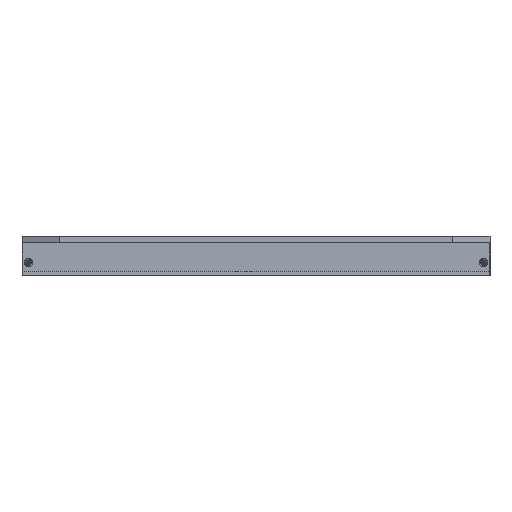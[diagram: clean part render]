
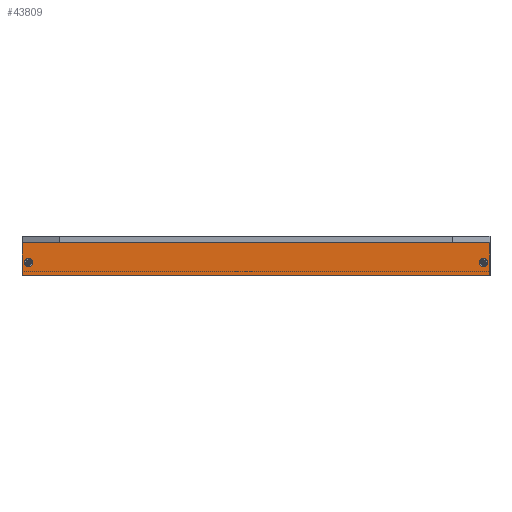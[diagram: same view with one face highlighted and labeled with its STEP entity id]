
A CAD part, front view. The second image highlights one B-rep face of the part: STEP entity #43809.
In plain terms, the highlighted planar face has unit normal (0, -1, 0).
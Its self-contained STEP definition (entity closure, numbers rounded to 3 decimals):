
#8741=DIRECTION('',(-1.,0.,0.));
#8742=VECTOR('',#8741,212.6);
#8743=CARTESIAN_POINT('',(106.3,-106.5,0.));
#8744=LINE('',#8743,#8742);
#13319=DIRECTION('',(0.,0.,-1.));
#13320=VECTOR('',#13319,14.8);
#13321=CARTESIAN_POINT('',(106.3,-106.5,0.));
#13322=LINE('',#13321,#13320);
#13323=CARTESIAN_POINT('',(-103.5,-106.5,-9.));
#13324=DIRECTION('',(0.,1.,0.));
#13325=DIRECTION('',(0.,0.,1.));
#13326=AXIS2_PLACEMENT_3D('',#13323,#13324,#13325);
#13328=CARTESIAN_POINT('',(-103.5,-106.5,-9.));
#13329=DIRECTION('',(0.,1.,0.));
#13330=DIRECTION('',(0.,0.,-1.));
#13331=AXIS2_PLACEMENT_3D('',#13328,#13329,#13330);
#13333=CARTESIAN_POINT('',(103.5,-106.5,-9.));
#13334=DIRECTION('',(0.,1.,0.));
#13335=DIRECTION('',(0.,0.,-1.));
#13336=AXIS2_PLACEMENT_3D('',#13333,#13334,#13335);
#13338=CARTESIAN_POINT('',(103.5,-106.5,-9.));
#13339=DIRECTION('',(0.,1.,0.));
#13340=DIRECTION('',(0.,0.,1.));
#13341=AXIS2_PLACEMENT_3D('',#13338,#13339,#13340);
#13343=DIRECTION('',(1.,0.,0.));
#13344=VECTOR('',#13343,212.6);
#13345=CARTESIAN_POINT('',(-106.3,-106.5,-14.8));
#13346=LINE('',#13345,#13344);
#13347=DIRECTION('',(0.,0.,-1.));
#13348=VECTOR('',#13347,14.8);
#13349=CARTESIAN_POINT('',(-106.3,-106.5,0.));
#13350=LINE('',#13349,#13348);
#18947=CARTESIAN_POINT('',(-106.3,-106.5,-14.8));
#18948=VERTEX_POINT('',#18947);
#18955=CARTESIAN_POINT('',(106.3,-106.5,-14.8));
#18956=VERTEX_POINT('',#18955);
#18957=CARTESIAN_POINT('',(103.5,-106.5,-7.));
#18958=CARTESIAN_POINT('',(103.5,-106.5,-11.));
#18959=VERTEX_POINT('',#18957);
#18960=VERTEX_POINT('',#18958);
#18961=CARTESIAN_POINT('',(-103.5,-106.5,-11.));
#18962=CARTESIAN_POINT('',(-103.5,-106.5,-7.));
#18963=VERTEX_POINT('',#18961);
#18964=VERTEX_POINT('',#18962);
#22975=CARTESIAN_POINT('',(-106.3,-106.5,0.));
#22977=VERTEX_POINT('',#22975);
#22978=CARTESIAN_POINT('',(106.3,-106.5,0.));
#22979=VERTEX_POINT('',#22978);
#43785=CARTESIAN_POINT('',(-106.5,-106.5,-15.));
#43786=DIRECTION('',(0.,-1.,0.));
#43787=DIRECTION('',(0.,0.,1.));
#43788=AXIS2_PLACEMENT_3D('',#43785,#43786,#43787);
#43789=PLANE('',#43788);
#43790=ORIENTED_EDGE('',*,*,#43780,.T.);
#43791=ORIENTED_EDGE('',*,*,#43750,.F.);
#43793=ORIENTED_EDGE('',*,*,#43792,.F.);
#43794=ORIENTED_EDGE('',*,*,#36882,.F.);
#43795=EDGE_LOOP('',(#43790,#43791,#43793,#43794));
#43796=FACE_OUTER_BOUND('',#43795,.F.);
#43798=ORIENTED_EDGE('',*,*,#43797,.F.);
#43800=ORIENTED_EDGE('',*,*,#43799,.F.);
#43801=EDGE_LOOP('',(#43798,#43800));
#43802=FACE_BOUND('',#43801,.F.);
#43804=ORIENTED_EDGE('',*,*,#43803,.F.);
#43806=ORIENTED_EDGE('',*,*,#43805,.F.);
#43807=EDGE_LOOP('',(#43804,#43806));
#43808=FACE_BOUND('',#43807,.F.);
#13327=CIRCLE('',#13326,2.);
#13332=CIRCLE('',#13331,2.);
#13337=CIRCLE('',#13336,2.);
#13342=CIRCLE('',#13341,2.);
#36882=EDGE_CURVE('',#22979,#22977,#8744,.T.);
#43750=EDGE_CURVE('',#18948,#18956,#13346,.T.);
#43780=EDGE_CURVE('',#22979,#18956,#13322,.T.);
#43792=EDGE_CURVE('',#22977,#18948,#13350,.T.);
#43797=EDGE_CURVE('',#18960,#18959,#13337,.T.);
#43799=EDGE_CURVE('',#18959,#18960,#13342,.T.);
#43803=EDGE_CURVE('',#18964,#18963,#13327,.T.);
#43805=EDGE_CURVE('',#18963,#18964,#13332,.T.);
#43809=ADVANCED_FACE('',(#43796,#43802,#43808),#43789,.T.);
